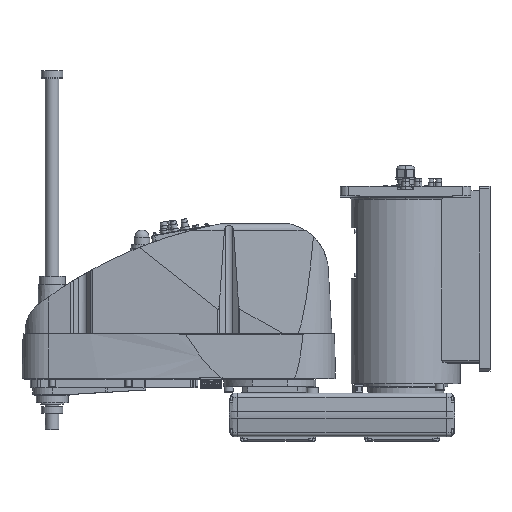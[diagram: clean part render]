
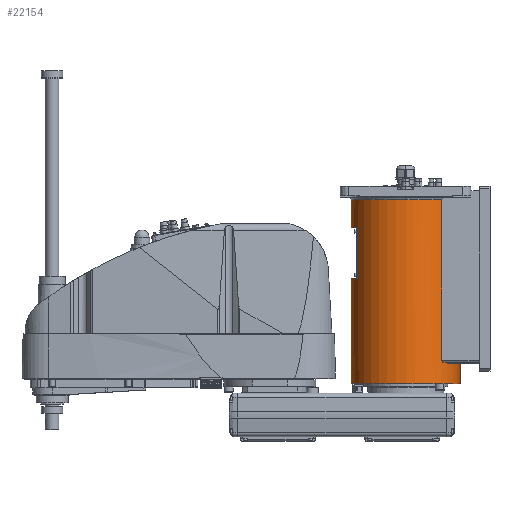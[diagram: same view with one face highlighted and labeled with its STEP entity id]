
A CAD part, top view. The second image highlights one B-rep face of the part: STEP entity #22154.
In plain terms, the highlighted cylindrical face has radius 100 mm (diameter 200 mm), a partial arc.
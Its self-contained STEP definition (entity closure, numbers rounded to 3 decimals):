
#10236 = VERTEX_POINT( '', #30280 );
#11730 = VERTEX_POINT( '', #31958 );
#11844 = VERTEX_POINT( '', #32087 );
#12330 = EDGE_CURVE( '', #10236, #16294, #32622, .T. );
#12680 = EDGE_CURVE( '', #28086, #26032, #33000, .T. );
#12834 = EDGE_CURVE( '', #27922, #29272, #33166, .T. );
#13278 = VERTEX_POINT( '', #33661 );
#13706 = EDGE_CURVE( '', #16294, #18324, #34156, .T. );
#14216 = VERTEX_POINT( '', #34717 );
#14492 = EDGE_CURVE( '', #15704, #20742, #35033, .T. );
#15130 = EDGE_CURVE( '', #28012, #13278, #35749, .T. );
#15704 = VERTEX_POINT( '', #36387 );
#16294 = VERTEX_POINT( '', #37053 );
#18324 = VERTEX_POINT( '', #39316 );
#18870 = VERTEX_POINT( '', #39921 );
#19816 = EDGE_CURVE( '', #26032, #14216, #40970, .T. );
#20420 = EDGE_CURVE( '', #11844, #24990, #41659, .T. );
#20742 = VERTEX_POINT( '', #42011 );
#20870 = EDGE_CURVE( '', #27922, #11730, #42155, .T. );
#20900 = EDGE_CURVE( '', #24990, #18870, #42189, .T. );
#21216 = EDGE_CURVE( '', #18324, #28086, #42540, .T. );
#22154 = ADVANCED_FACE( '', ( #43571 ), #43572, .T. );
#22740 = EDGE_CURVE( '', #20742, #10236, #44217, .T. );
#24114 = EDGE_CURVE( '', #11730, #14216, #45765, .T. );
#24990 = VERTEX_POINT( '', #46758 );
#26020 = EDGE_CURVE( '', #18870, #15704, #47907, .T. );
#26032 = VERTEX_POINT( '', #47920 );
#26270 = EDGE_CURVE( '', #13278, #11844, #48185, .T. );
#27922 = VERTEX_POINT( '', #50035 );
#28012 = VERTEX_POINT( '', #50136 );
#28086 = VERTEX_POINT( '', #50221 );
#29272 = VERTEX_POINT( '', #51532 );
#29638 = EDGE_CURVE( '', #29272, #28012, #51930, .T. );
#30280 = CARTESIAN_POINT( '', ( 89.303, 62., 45. ) );
#31958 = CARTESIAN_POINT( '', ( 0., 363., 100. ) );
#32087 = CARTESIAN_POINT( '', ( -100., 218.3, 0. ) );
#32622 = CIRCLE( '', #56018, 100. );
#33000 = B_SPLINE_CURVE_WITH_KNOTS( '', 3, ( #56558, #56559, #56560, #56561, #56562, #56563, #56564, #56565, #56566, #56567, #56568, #56569, #56570, #56571, #56572, #56573, #56574, #56575 ), .UNSPECIFIED., .F., .F., ( 4, 2, 2, 2, 2, 2, 2, 2, 4 ), ( 7.241, 8.361, 9.482, 10.602, 11.722, 12.472, 13.222, 13.972, 14.722 ), .UNSPECIFIED. );
#33166 = LINE( '', #56811, #56812 );
#33661 = CARTESIAN_POINT( '', ( -88., 218.3, 47.497 ) );
#34156 = LINE( '', #58174, #58175 );
#34717 = CARTESIAN_POINT( '', ( 66.144, 363., 75. ) );
#35033 = CIRCLE( '', #59523, 100. );
#35749 = LINE( '', #60625, #60626 );
#36387 = CARTESIAN_POINT( '', ( 100., 64., 0. ) );
#37053 = CARTESIAN_POINT( '', ( 75.993, 62., 65. ) );
#39316 = CARTESIAN_POINT( '', ( 75.993, 64., 65. ) );
#39921 = CARTESIAN_POINT( '', ( 100., 25., 0. ) );
#40970 = LINE( '', #68229, #68230 );
#41659 = LINE( '', #69206, #69207 );
#42011 = CARTESIAN_POINT( '', ( 89.303, 64., 45. ) );
#42155 = CIRCLE( '', #69926, 100. );
#42189 = CIRCLE( '', #69970, 100. );
#42540 = CIRCLE( '', #70489, 100. );
#43571 = FACE_OUTER_BOUND( '', #72009, .T. );
#43572 = CYLINDRICAL_SURFACE( '', #72010, 100. );
#44217 = LINE( '', #72904, #72905 );
#45765 = CIRCLE( '', #75068, 100. );
#46758 = CARTESIAN_POINT( '', ( -100., 25., 0. ) );
#47907 = LINE( '', #78097, #78098 );
#47920 = CARTESIAN_POINT( '', ( 66.144, 68., 75. ) );
#48185 = CIRCLE( '', #78493, 100. );
#50035 = CARTESIAN_POINT( '', ( -100., 363., 0. ) );
#50136 = CARTESIAN_POINT( '', ( -88., 311.3, 47.497 ) );
#50221 = CARTESIAN_POINT( '', ( 70.42, 64., 71. ) );
#51532 = CARTESIAN_POINT( '', ( -100., 311.3, 0. ) );
#51930 = CIRCLE( '', #83830, 100. );
#56018 = AXIS2_PLACEMENT_3D( '', #87341, #87342, #87343 );
#56558 = CARTESIAN_POINT( '', ( 70.42, 64., 71. ) );
#56559 = CARTESIAN_POINT( '', ( 70.155, 64., 71.263 ) );
#56560 = CARTESIAN_POINT( '', ( 69.877, 64.026, 71.535 ) );
#56561 = CARTESIAN_POINT( '', ( 69.316, 64.139, 72.08 ) );
#56562 = CARTESIAN_POINT( '', ( 69.031, 64.224, 72.352 ) );
#56563 = CARTESIAN_POINT( '', ( 68.475, 64.457, 72.879 ) );
#56564 = CARTESIAN_POINT( '', ( 68.203, 64.604, 73.134 ) );
#56565 = CARTESIAN_POINT( '', ( 67.688, 64.954, 73.61 ) );
#56566 = CARTESIAN_POINT( '', ( 67.446, 65.158, 73.831 ) );
#56567 = CARTESIAN_POINT( '', ( 67.082, 65.542, 74.162 ) );
#56568 = CARTESIAN_POINT( '', ( 66.938, 65.716, 74.292 ) );
#56569 = CARTESIAN_POINT( '', ( 66.674, 66.103, 74.529 ) );
#56570 = CARTESIAN_POINT( '', ( 66.555, 66.315, 74.636 ) );
#56571 = CARTESIAN_POINT( '', ( 66.356, 66.766, 74.812 ) );
#56572 = CARTESIAN_POINT( '', ( 66.277, 67.005, 74.882 ) );
#56573 = CARTESIAN_POINT( '', ( 66.171, 67.497, 74.976 ) );
#56574 = CARTESIAN_POINT( '', ( 66.144, 67.75, 75. ) );
#56575 = CARTESIAN_POINT( '', ( 66.144, 68., 75. ) );
#56811 = CARTESIAN_POINT( '', ( -100., 194., 0. ) );
#56812 = VECTOR( '', #87912, 1. );
#58174 = CARTESIAN_POINT( '', ( 75.993, 63., 65. ) );
#58175 = VECTOR( '', #89137, 1. );
#59523 = AXIS2_PLACEMENT_3D( '', #90102, #90103, #90104 );
#60625 = CARTESIAN_POINT( '', ( -88., 264.8, 47.497 ) );
#60626 = VECTOR( '', #90904, 1. );
#68229 = CARTESIAN_POINT( '', ( 66.144, 215.5, 75. ) );
#68230 = VECTOR( '', #96777, 1. );
#69206 = CARTESIAN_POINT( '', ( -100., 194., 0. ) );
#69207 = VECTOR( '', #97688, 1. );
#69926 = AXIS2_PLACEMENT_3D( '', #98226, #98227, #98228 );
#69970 = AXIS2_PLACEMENT_3D( '', #98268, #98269, #98270 );
#70489 = AXIS2_PLACEMENT_3D( '', #98699, #98700, #98701 );
#72009 = EDGE_LOOP( '', ( #99881, #99882, #99883, #99884, #99885, #99886, #99887, #99888, #99889, #99890, #99891, #99892, #99893, #99894, #99895, #99896 ) );
#72010 = AXIS2_PLACEMENT_3D( '', #99897, #99898, #99899 );
#72904 = CARTESIAN_POINT( '', ( 89.303, 63., 45. ) );
#72905 = VECTOR( '', #100588, 1. );
#75068 = AXIS2_PLACEMENT_3D( '', #102341, #102342, #102343 );
#78097 = CARTESIAN_POINT( '', ( 100., 194., 0. ) );
#78098 = VECTOR( '', #104924, 1. );
#78493 = AXIS2_PLACEMENT_3D( '', #105254, #105255, #105256 );
#83830 = AXIS2_PLACEMENT_3D( '', #109524, #109525, #109526 );
#87341 = CARTESIAN_POINT( '', ( 0., 62., 0. ) );
#87342 = DIRECTION( '', ( 0., -1., 0. ) );
#87343 = DIRECTION( '', ( 1., 0., 0. ) );
#87912 = DIRECTION( '', ( 0., -1., 0. ) );
#89137 = DIRECTION( '', ( 0., 1., 0. ) );
#90102 = CARTESIAN_POINT( '', ( 0., 64., 0. ) );
#90103 = DIRECTION( '', ( 0., -1., 0. ) );
#90104 = DIRECTION( '', ( 1., 0., 0. ) );
#90904 = DIRECTION( '', ( 0., -1., 0. ) );
#96777 = DIRECTION( '', ( 0., 1., 0. ) );
#97688 = DIRECTION( '', ( 0., -1., 0. ) );
#98226 = CARTESIAN_POINT( '', ( 0., 363., 0. ) );
#98227 = DIRECTION( '', ( 0., 1., 0. ) );
#98228 = DIRECTION( '', ( 1., 0., 0. ) );
#98268 = CARTESIAN_POINT( '', ( 0., 25., 0. ) );
#98269 = DIRECTION( '', ( 0., 1., 0. ) );
#98270 = DIRECTION( '', ( 1., 0., 0. ) );
#98699 = CARTESIAN_POINT( '', ( 0., 64., 0. ) );
#98700 = DIRECTION( '', ( 0., -1., 0. ) );
#98701 = DIRECTION( '', ( 1., 0., 0. ) );
#99881 = ORIENTED_EDGE( '', *, *, #26020, .T. );
#99882 = ORIENTED_EDGE( '', *, *, #14492, .T. );
#99883 = ORIENTED_EDGE( '', *, *, #22740, .T. );
#99884 = ORIENTED_EDGE( '', *, *, #12330, .T. );
#99885 = ORIENTED_EDGE( '', *, *, #13706, .T. );
#99886 = ORIENTED_EDGE( '', *, *, #21216, .T. );
#99887 = ORIENTED_EDGE( '', *, *, #12680, .T. );
#99888 = ORIENTED_EDGE( '', *, *, #19816, .T. );
#99889 = ORIENTED_EDGE( '', *, *, #24114, .F. );
#99890 = ORIENTED_EDGE( '', *, *, #20870, .F. );
#99891 = ORIENTED_EDGE( '', *, *, #12834, .T. );
#99892 = ORIENTED_EDGE( '', *, *, #29638, .T. );
#99893 = ORIENTED_EDGE( '', *, *, #15130, .T. );
#99894 = ORIENTED_EDGE( '', *, *, #26270, .T. );
#99895 = ORIENTED_EDGE( '', *, *, #20420, .T. );
#99896 = ORIENTED_EDGE( '', *, *, #20900, .T. );
#99897 = CARTESIAN_POINT( '', ( 0., 194., 0. ) );
#99898 = DIRECTION( '', ( 0., -1., 0. ) );
#99899 = DIRECTION( '', ( 1., 0., 0. ) );
#100588 = DIRECTION( '', ( 0., -1., 0. ) );
#102341 = CARTESIAN_POINT( '', ( 0., 363., 0. ) );
#102342 = DIRECTION( '', ( 0., 1., 0. ) );
#102343 = DIRECTION( '', ( 1., 0., 0. ) );
#104924 = DIRECTION( '', ( 0., 1., 0. ) );
#105254 = CARTESIAN_POINT( '', ( 0., 218.3, 0. ) );
#105255 = DIRECTION( '', ( 0., -1., 0. ) );
#105256 = DIRECTION( '', ( 1., 0., 0. ) );
#109524 = CARTESIAN_POINT( '', ( 0., 311.3, 0. ) );
#109525 = DIRECTION( '', ( 0., 1., 0. ) );
#109526 = DIRECTION( '', ( 1., 0., 0. ) );
